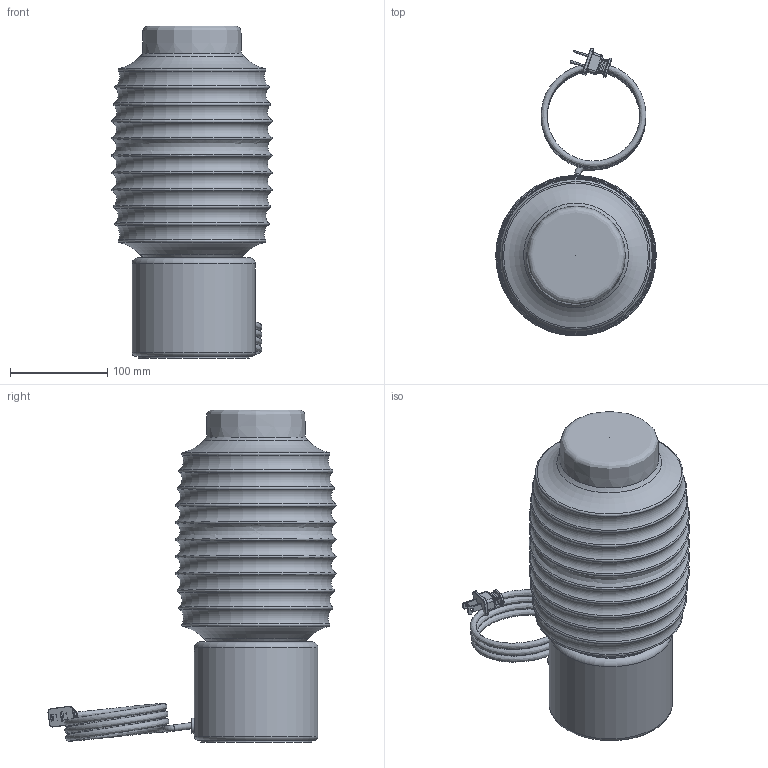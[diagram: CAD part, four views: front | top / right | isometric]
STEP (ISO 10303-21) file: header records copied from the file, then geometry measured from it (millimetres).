
FILE_DESCRIPTION(/* description */ (''),/* implementation_level */ '2;1');
FILE_NAME(/* name */ 'Chinois - Ionic Table Lamp - Opalia Collection.step',/* time_stamp */ '2024-07-26T15:19:33-04:00',/* author */ (''),/* organization */ (''),/* preprocessor_version */ 'ST-DEVELOPER v20',/* originating_system */ 'Autodesk Translation Framework v13.14.0.145',/* authorisation */ '');
FILE_SCHEMA (('AUTOMOTIVE_DESIGN { 1 0 10303 214 3 1 1 }'));
Length unit declared in the file: inch
Products named in the file (18): Marble Base - Ionic Table Lamp - Ketra Ready - 120V - Opalia Collecti
on; Marble Base - Ionic Table Lamp - Ketra Ready - 120V; Coiled - SVT (Blk Fabric); Marble Base; 90701000093 ¹â°åE27µÆ×ù_¦Õ375
9mm_ºÚÉ«_CEÈÏÖ¤; 90701000096 M10ÑÀ¹Ü_M10L25mmÄÚ¿×¦
Õ7_²ÄÖÊ£ºÌú_¶Æ°×Ð
¿_RoHS; 90701000098 Ñ¹Ïß°å_PP_314612_º
ÚÉ«; 90701000097 M10Áù½Ç±¡ÂÝÄ¸_M10
_²ÄÖÊ£ºÌú_¶Æ°×Ð¿
_RoHS; M10ÄÚ¾â³ÝËø½ôµæÈ¦
_²ÄÖÊ£ºÌú_¶Æ°×Ð¿
_RoHS; Plastic Insert; Silicone Gasket; Neoprene Pad; 2-Pole Plug End; Rubber Grommet; Chinois; Chinois_1; Ketra - A20 Tunable Lamp; Ketra A20
Assembly tree (17 placements, depth 3):
  Marble Base - Ionic Table Lamp - Ketra Ready - 120V - Opalia Collecti
on
    Marble Base - Ionic Table Lamp - Ketra Ready - 120V
      Coiled - SVT (Blk Fabric)
      Marble Base
      90701000093 ¹â°åE27µÆ×ù_¦Õ375
9mm_ºÚÉ«_CEÈÏÖ¤
      90701000096 M10ÑÀ¹Ü_M10L25mmÄÚ¿×¦
Õ7_²ÄÖÊ£ºÌú_¶Æ°×Ð
¿_RoHS
      90701000098 Ñ¹Ïß°å_PP_314612_º
ÚÉ«
      90701000097 M10Áù½Ç±¡ÂÝÄ¸_M10
_²ÄÖÊ£ºÌú_¶Æ°×Ð¿
_RoHS
      M10ÄÚ¾â³ÝËø½ôµæÈ¦
_²ÄÖÊ£ºÌú_¶Æ°×Ð¿
_RoHS
      Plastic Insert
      Silicone Gasket
      Neoprene Pad
      2-Pole Plug End
      Rubber Grommet
    Chinois
      Chinois_1
    Ketra - A20 Tunable Lamp
      Ketra A20
Bounding box: 165.1 x 296.64 x 341.91 mm (x, y, z)
Volume: 1336805.4 mm3; surface area: 570297.4 mm2
Topology: 14 solids, 15 shells, 2026 faces, 5368 edges, 3517 vertices
Faces by surface type: plane 981, bspline 823, cylinder 129, torus 64, cone 28, sphere 1
Full cylindrical faces by diameter (mm): 3.175 x2, 4.092 x1, 6.35 x2, 7 x1, 7.62 x1, 8.128 x1, 8.3 x1, 8.376 x14, 10 x16, 10.16 x1, 10.5 x1, 10.922 x1, 11 x1, 11.684 x1, 14 x1, 15.24 x2, 16 x1, 21 x1, 25.4 x3, 27 x1, 35.5 x1, 37.5 x1, 39.37 x1, 41.402 x1, 80.518 x1, 82.55 x1, 93.98 x1, 95.252 x1, 98.044 x1, 100.076 x1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
Entity records: 77978 total; most frequent: CARTESIAN_POINT 32603, ORIENTED_EDGE 10728, DIRECTION 6558, EDGE_CURVE 5365, VERTEX_POINT 3517, LINE 3258, VECTOR 3258, EDGE_LOOP 2202
